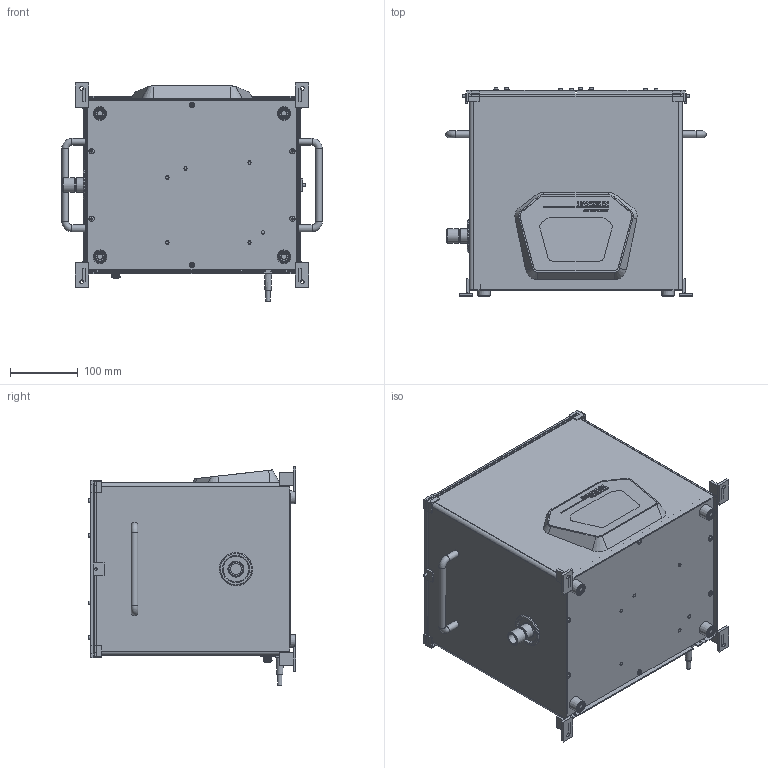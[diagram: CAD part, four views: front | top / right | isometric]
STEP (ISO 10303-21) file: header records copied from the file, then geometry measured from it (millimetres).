
FILE_DESCRIPTION(('Open CASCADE Model'),'2;1');
FILE_NAME('Open CASCADE Shape Model','2026-11-06T01:56:42',('Author'),( 'Open CASCADE'),'Open CASCADE STEP processor 7.8','Open CASCADE 7.8' ,'Unknown');
FILE_SCHEMA(('AUTOMOTIVE_DESIGN { 1 0 10303 214 1 1 1 1 }'));
Length unit declared in the file: millimetre
Products named in the file (76): Sonicator_Two_Racks_Preview_R02; Manufacturer_REFERENCE_shells; Left_independent_top_plate; Left_Guide_01; Left_M3_screw_envelope_00; Left_washer_envelope_00; Left_Guide_02; Left_M3_screw_envelope_01; Left_washer_envelope_01; Left_Guide_03; Left_M3_screw_envelope_02; Left_washer_envelope_02; Left_Guide_04; Left_M3_screw_envelope_03; Left_washer_envelope_03; Left_Vial_REFERENCE_00_00; Left_Vial_REFERENCE_00_01; Left_Vial_REFERENCE_00_02; Left_Vial_REFERENCE_00_03; Left_Vial_REFERENCE_01_00; Left_Vial_REFERENCE_01_01; Left_Vial_REFERENCE_01_02; Left_Vial_REFERENCE_01_03; Left_Vial_REFERENCE_02_00; Left_Vial_REFERENCE_02_01; Left_Vial_REFERENCE_02_02; Left_Vial_REFERENCE_02_03; Left_Vial_REFERENCE_03_00; Left_Vial_REFERENCE_03_01; Left_Vial_REFERENCE_03_02; Left_Vial_REFERENCE_03_03; Left_Rack_REFERENCE_assumed_holes; Left_locator_-1; Left_locator_1; Left_clamp_pad_CONCEPT; Left_clamp_tab_CONCEPT; Left_clamp_screw_CONCEPT; Right_independent_top_plate; Right_Guide_01; Right_M3_screw_envelope_00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
Assembly tree (75 placements, depth 2):
  Sonicator_Two_Racks_Preview_R02
    Manufacturer_REFERENCE_shells
    Left_independent_top_plate
    Left_Guide_01
    Left_M3_screw_envelope_00
    Left_washer_envelope_00
    Left_Guide_02
    Left_M3_screw_envelope_01
    Left_washer_envelope_01
    Left_Guide_03
    Left_M3_screw_envelope_02
    Left_washer_envelope_02
    Left_Guide_04
    Left_M3_screw_envelope_03
    Left_washer_envelope_03
    Left_Vial_REFERENCE_00_00
    Left_Vial_REFERENCE_00_01
    Left_Vial_REFERENCE_00_02
    Left_Vial_REFERENCE_00_03
    Left_Vial_REFERENCE_01_00
    Left_Vial_REFERENCE_01_01
    Left_Vial_REFERENCE_01_02
    Left_Vial_REFERENCE_01_03
    Left_Vial_REFERENCE_02_00
    Left_Vial_REFERENCE_02_01
    Left_Vial_REFERENCE_02_02
    Left_Vial_REFERENCE_02_03
    Left_Vial_REFERENCE_03_00
    Left_Vial_REFERENCE_03_01
    Left_Vial_REFERENCE_03_02
    Left_Vial_REFERENCE_03_03
    Left_Rack_REFERENCE_assumed_holes
    Left_locator_-1
    Left_locator_1
    Left_clamp_pad_CONCEPT
    Left_clamp_tab_CONCEPT
    Left_clamp_screw_CONCEPT
    Right_independent_top_plate
    Right_Guide_01
    Right_M3_screw_envelope_00
    Right_washer_envelope_00
    Right_Guide_02
    Right_M3_screw_envelope_01
    Right_washer_envelope_01
    Right_Guide_03
    Right_M3_screw_envelope_02
    Right_washer_envelope_02
    Right_Guide_04
    Right_M3_screw_envelope_03
    Right_washer_envelope_03
    Right_Vial_REFERENCE_00_00
    Right_Vial_REFERENCE_00_01
    Right_Vial_REFERENCE_00_02
    Right_Vial_REFERENCE_00_03
    Right_Vial_REFERENCE_01_00
    Right_Vial_REFERENCE_01_01
    Right_Vial_REFERENCE_01_02
    Right_Vial_REFERENCE_01_03
    Right_Vial_REFERENCE_02_00
    Right_Vial_REFERENCE_02_01
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Bounding box: 385 x 307.45 x 322.49 mm (x, y, z)
Volume: 1298010.3 mm3; surface area: 1407612.8 mm2
Topology: 74 solids, 160 shells, 962 faces, 3130 edges, 2424 vertices
Faces by surface type: plane 589, cylinder 233, cone 68, torus 47, bspline 17, sphere 8
Full cylindrical faces by diameter (mm): 2.5 x8, 3 x8, 3.2 x8, 4 x2, 5 x1, 5.5 x12, 6.5 x1, 7 x8, 8 x6, 9 x4, 10 x14, 13 x4, 14 x4, 16.1 x1, 16.6 x32, 17.2 x32, 18.5 x1, 21.3 x2, 49 x1
Entity records: 82453 total; most frequent: CARTESIAN_POINT 27893, DIRECTION 9356, LINE 5083, VECTOR 5083, ORIENTED_EDGE 4775, PCURVE 4775, DEFINITIONAL_REPRESENTATION 4775, EDGE_CURVE 3130
